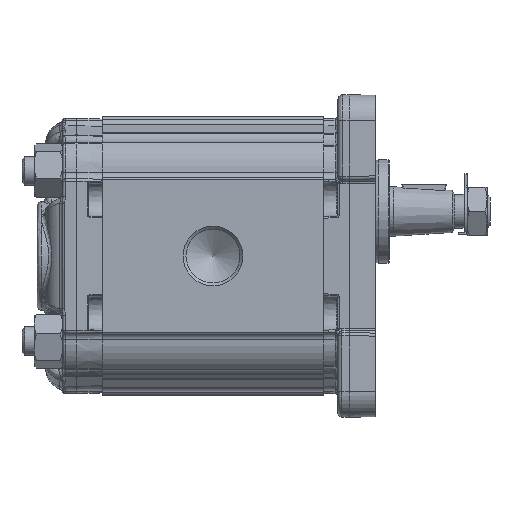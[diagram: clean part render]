
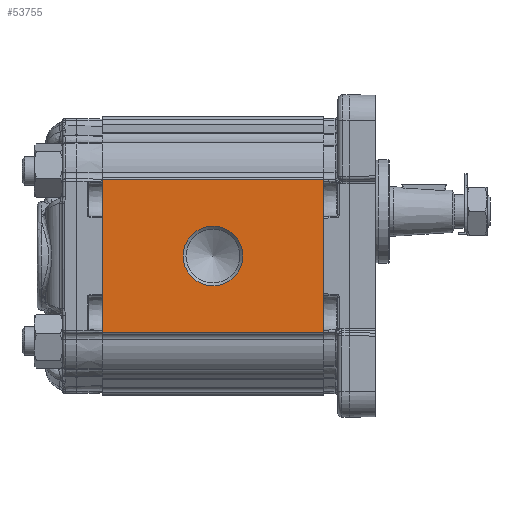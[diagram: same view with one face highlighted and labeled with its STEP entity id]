
A CAD part, left-side view. The second image highlights one B-rep face of the part: STEP entity #53755.
In plain terms, the highlighted planar face has unit normal (-1, 0, 0) as drawn and (1, 0, 0) by its records, which use the part's own axes.
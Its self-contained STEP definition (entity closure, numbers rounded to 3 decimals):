
#3584=PLANE('',#56984);
#4832=CIRCLE('',#56985,10.5);
#9679=ORIENTED_EDGE('',*,*,#18864,.T.);
#9680=ORIENTED_EDGE('',*,*,#18810,.F.);
#9681=ORIENTED_EDGE('',*,*,#18863,.F.);
#9682=ORIENTED_EDGE('',*,*,#18778,.T.);
#9683=ORIENTED_EDGE('',*,*,#18865,.T.);
#18778=EDGE_CURVE('',#23687,#23686,#26536,.T.);
#18810=EDGE_CURVE('',#23718,#23719,#26542,.T.);
#18863=EDGE_CURVE('',#23687,#23718,#26574,.T.);
#18864=EDGE_CURVE('',#23744,#23744,#4832,.F.);
#18865=EDGE_CURVE('',#23686,#23719,#26575,.T.);
#23686=VERTEX_POINT('',#77112);
#23687=VERTEX_POINT('',#77114);
#23718=VERTEX_POINT('',#77177);
#23719=VERTEX_POINT('',#77179);
#23744=VERTEX_POINT('',#77281);
#26536=LINE('',#77113,#28389);
#26542=LINE('',#77178,#28395);
#26574=LINE('',#77278,#28427);
#26575=LINE('',#77282,#28428);
#28389=VECTOR('',#62756,1000.);
#28395=VECTOR('',#62816,1000.);
#28427=VECTOR('',#62934,1000.);
#28428=VECTOR('',#62939,1000.);
#30751=EDGE_LOOP('',(#9679));
#30752=EDGE_LOOP('',(#9680,#9681,#9682,#9683));
#33544=FACE_BOUND('',#30751,.T.);
#33545=FACE_BOUND('',#30752,.T.);
#53755=ADVANCED_FACE('',(#33544,#33545),#3584,.T.);
#56984=AXIS2_PLACEMENT_3D('',#77279,#62935,#62936);
#56985=AXIS2_PLACEMENT_3D('',#77280,#62937,#62938);
#62756=DIRECTION('',(0.,0.,1.));
#62816=DIRECTION('',(0.,0.,1.));
#62934=DIRECTION('',(0.,-1.,0.));
#62935=DIRECTION('',(1.,0.,0.));
#62936=DIRECTION('',(0.,0.,-1.));
#62937=DIRECTION('',(1.,0.,0.));
#62938=DIRECTION('',(0.,0.,-1.));
#62939=DIRECTION('',(0.,-1.,0.));
#77112=CARTESIAN_POINT('',(43.,78.,27.048));
#77113=CARTESIAN_POINT('',(43.,78.,27.048));
#77114=CARTESIAN_POINT('',(43.,78.,-27.048));
#77177=CARTESIAN_POINT('',(43.,0.,-27.048));
#77178=CARTESIAN_POINT('',(43.,0.,27.048));
#77179=CARTESIAN_POINT('',(43.,0.,27.048));
#77278=CARTESIAN_POINT('',(43.,78.,-27.048));
#77279=CARTESIAN_POINT('',(43.,78.,27.048));
#77280=CARTESIAN_POINT('',(43.,39.,0.));
#77281=CARTESIAN_POINT('',(43.,39.,-10.5));
#77282=CARTESIAN_POINT('',(43.,78.,27.048));
